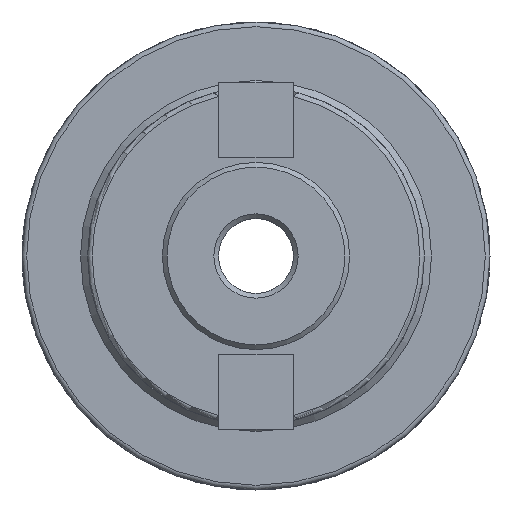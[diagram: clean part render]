
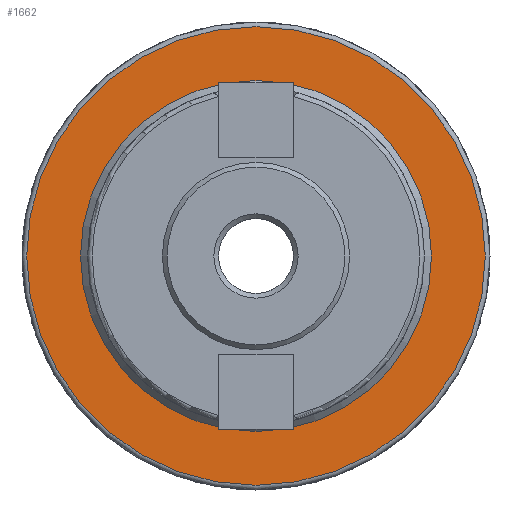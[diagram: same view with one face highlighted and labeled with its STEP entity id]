
A CAD part, front view. The second image highlights one B-rep face of the part: STEP entity #1662.
In plain terms, the highlighted planar face has unit normal (0, -1, 0).
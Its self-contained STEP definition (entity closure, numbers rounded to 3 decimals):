
#97=FACE_BOUND('',#501,.T.);
#113=PLANE('',#1845);
#406=FACE_OUTER_BOUND('',#500,.T.);
#500=EDGE_LOOP('',(#1157,#1158));
#501=EDGE_LOOP('',(#1159,#1160));
#608=CIRCLE('',#1836,49.);
#613=CIRCLE('',#1841,49.);
#616=CIRCLE('',#1846,37.5);
#617=CIRCLE('',#1847,37.5);
#704=VERTEX_POINT('',#2526);
#705=VERTEX_POINT('',#2527);
#714=VERTEX_POINT('',#2563);
#715=VERTEX_POINT('',#2564);
#882=EDGE_CURVE('',#704,#705,#608,.T.);
#887=EDGE_CURVE('',#705,#704,#613,.T.);
#894=EDGE_CURVE('',#714,#715,#616,.T.);
#895=EDGE_CURVE('',#715,#714,#617,.T.);
#1157=ORIENTED_EDGE('',*,*,#882,.F.);
#1158=ORIENTED_EDGE('',*,*,#887,.F.);
#1159=ORIENTED_EDGE('',*,*,#894,.T.);
#1160=ORIENTED_EDGE('',*,*,#895,.T.);
#1662=ADVANCED_FACE('',(#406,#97),#113,.T.);
#1836=AXIS2_PLACEMENT_3D('',#2528,#2038,#2039);
#1841=AXIS2_PLACEMENT_3D('',#2536,#2048,#2049);
#1845=AXIS2_PLACEMENT_3D('',#2562,#2057,#2058);
#1846=AXIS2_PLACEMENT_3D('',#2565,#2059,#2060);
#1847=AXIS2_PLACEMENT_3D('',#2566,#2061,#2062);
#2038=DIRECTION('center_axis',(0.,1.,0.));
#2039=DIRECTION('ref_axis',(-1.,0.,0.));
#2048=DIRECTION('center_axis',(0.,1.,0.));
#2049=DIRECTION('ref_axis',(-1.,0.,0.));
#2057=DIRECTION('center_axis',(0.,-1.,0.));
#2058=DIRECTION('ref_axis',(0.,0.,-1.));
#2059=DIRECTION('center_axis',(0.,1.,0.));
#2060=DIRECTION('ref_axis',(-1.,0.,0.));
#2061=DIRECTION('center_axis',(0.,1.,0.));
#2062=DIRECTION('ref_axis',(-1.,0.,0.));
#2526=CARTESIAN_POINT('',(49.,87.3,0.));
#2527=CARTESIAN_POINT('',(0.,87.3,49.));
#2528=CARTESIAN_POINT('Origin',(0.,87.3,0.));
#2536=CARTESIAN_POINT('Origin',(0.,87.3,0.));
#2562=CARTESIAN_POINT('Origin',(36.,87.3,0.));
#2563=CARTESIAN_POINT('',(-37.5,87.3,0.));
#2564=CARTESIAN_POINT('',(37.5,87.3,0.));
#2565=CARTESIAN_POINT('Origin',(0.,87.3,0.));
#2566=CARTESIAN_POINT('Origin',(0.,87.3,0.));
